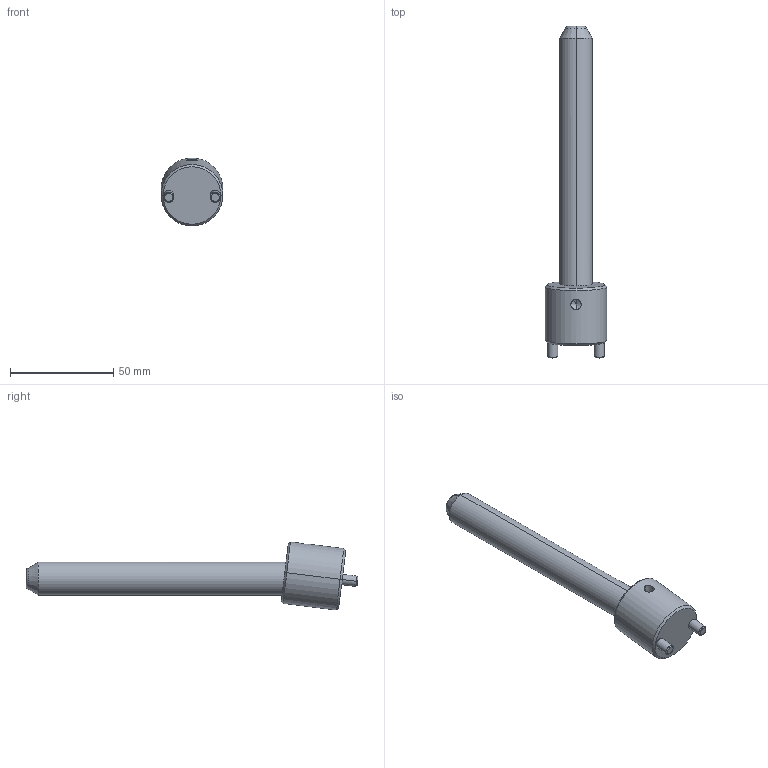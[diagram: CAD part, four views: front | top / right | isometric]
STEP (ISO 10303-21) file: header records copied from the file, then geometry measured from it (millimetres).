
FILE_DESCRIPTION(('CATIA V5 STEP Exchange'),'2;1');
FILE_NAME('C:\Users\Raffaele\Desktop\3D BOLEX\3D FILES CF BOLEX\19-INCLINED ASSEMBLY REF_CI\CI0716125.stp','2019-06-24T07:06:43+00:00',('none'),('none'),'CATIA Version 5 Release 20 GA (IN-10)','CATIA V5 STEP AP203','none');
FILE_SCHEMA(('CONFIG_CONTROL_DESIGN'));
Length unit declared in the file: millimetre
Products named in the file (1): CI0716125
Assembly tree (2 placements, depth 2):
  CI0716125
    #58
    #578
Bounding box: 30 x 160.84 x 32.95 mm (x, y, z)
Volume: 44364 mm3; surface area: 13240.1 mm2
Topology: 2 solids, 2 shells, 39 faces, 82 edges, 47 vertices
Faces by surface type: cone 14, cylinder 14, plane 7, torus 4
Entity records: 1467 total; most frequent: CARTESIAN_POINT 608, ORIENTED_EDGE 160, DIRECTION 145, EDGE_CURVE 80, AXIS2_PLACEMENT_3D 72, VERTEX_POINT 47, EDGE_LOOP 43, ADVANCED_FACE 39
